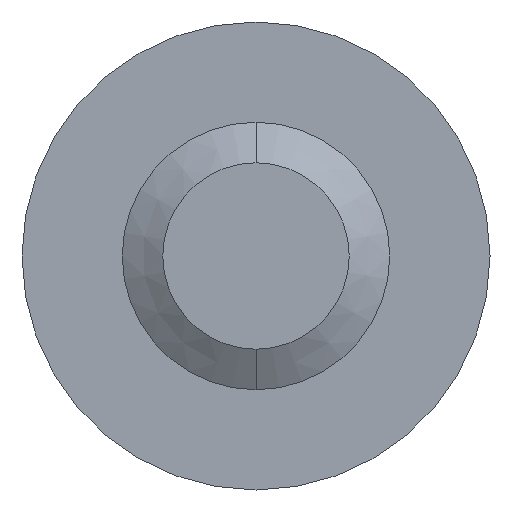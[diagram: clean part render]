
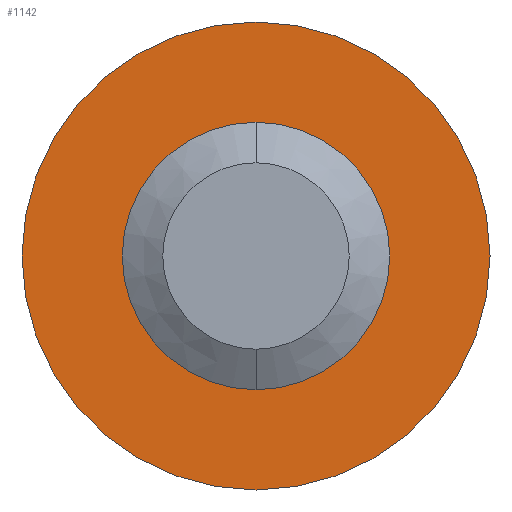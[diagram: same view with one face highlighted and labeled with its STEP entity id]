
A CAD part, front view. The second image highlights one B-rep face of the part: STEP entity #1142.
In plain terms, the highlighted planar face has unit normal (0, -1, 0).
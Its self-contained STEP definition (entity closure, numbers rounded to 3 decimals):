
#50 = ORIENTED_EDGE ( 'NONE', *, *, #1164, .T. ) ;
#132 = CARTESIAN_POINT ( 'NONE',  ( 0., 8., 2. ) ) ;
#155 = VERTEX_POINT ( 'NONE', #1863 ) ;
#159 = DIRECTION ( 'NONE',  ( 0., 1., 0. ) ) ;
#272 = CIRCLE ( 'NONE', #1053, 2. ) ;
#284 = CARTESIAN_POINT ( 'NONE',  ( 0., 8., 0. ) ) ;
#286 = AXIS2_PLACEMENT_3D ( 'NONE', #1284, #1498, #907 ) ;
#288 = CARTESIAN_POINT ( 'NONE',  ( 0., 8., 0. ) ) ;
#297 = DIRECTION ( 'NONE',  ( 0., 1., 0. ) ) ;
#316 = DIRECTION ( 'NONE',  ( 0., 0., 1. ) ) ;
#360 = AXIS2_PLACEMENT_3D ( 'NONE', #284, #704, #1010 ) ;
#579 = DIRECTION ( 'NONE',  ( 0., 0., 1. ) ) ;
#662 = CIRCLE ( 'NONE', #360, 3.5 ) ;
#701 = VERTEX_POINT ( 'NONE', #878 ) ;
#704 = DIRECTION ( 'NONE',  ( 0., 1., 0. ) ) ;
#721 = FACE_BOUND ( 'NONE', #1335, .T. ) ;
#730 = EDGE_CURVE ( 'NONE', #960, #155, #662, .T. ) ;
#733 = DIRECTION ( 'NONE',  ( 0., 0., 1. ) ) ;
#772 = EDGE_CURVE ( 'NONE', #155, #960, #1665, .T. ) ;
#786 = VERTEX_POINT ( 'NONE', #132 ) ;
#841 = AXIS2_PLACEMENT_3D ( 'NONE', #1162, #159, #733 ) ;
#864 = PLANE ( 'NONE',  #1395 ) ;
#878 = CARTESIAN_POINT ( 'NONE',  ( 0., 8., -2. ) ) ;
#890 = CARTESIAN_POINT ( 'NONE',  ( 0., 8., 0. ) ) ;
#907 = DIRECTION ( 'NONE',  ( 0., 0., 1. ) ) ;
#929 = CARTESIAN_POINT ( 'NONE',  ( 0., 8., 3.5 ) ) ;
#960 = VERTEX_POINT ( 'NONE', #929 ) ;
#1001 = EDGE_LOOP ( 'NONE', ( #1496, #1027 ) ) ;
#1010 = DIRECTION ( 'NONE',  ( 0., 0., 1. ) ) ;
#1027 = ORIENTED_EDGE ( 'NONE', *, *, #730, .F. ) ;
#1053 = AXIS2_PLACEMENT_3D ( 'NONE', #288, #297, #316 ) ;
#1104 = CIRCLE ( 'NONE', #286, 2. ) ;
#1142 = ADVANCED_FACE ( 'NONE', ( #1595, #721 ), #864, .F. ) ;
#1150 = DIRECTION ( 'NONE',  ( 0., 1., 0. ) ) ;
#1162 = CARTESIAN_POINT ( 'NONE',  ( 0., 8., 0. ) ) ;
#1164 = EDGE_CURVE ( 'NONE', #786, #701, #272, .T. ) ;
#1283 = ORIENTED_EDGE ( 'NONE', *, *, #1721, .T. ) ;
#1284 = CARTESIAN_POINT ( 'NONE',  ( 0., 8., 0. ) ) ;
#1335 = EDGE_LOOP ( 'NONE', ( #1283, #50 ) ) ;
#1395 = AXIS2_PLACEMENT_3D ( 'NONE', #890, #1150, #579 ) ;
#1496 = ORIENTED_EDGE ( 'NONE', *, *, #772, .F. ) ;
#1498 = DIRECTION ( 'NONE',  ( 0., 1., 0. ) ) ;
#1595 = FACE_OUTER_BOUND ( 'NONE', #1001, .T. ) ;
#1665 = CIRCLE ( 'NONE', #841, 3.5 ) ;
#1721 = EDGE_CURVE ( 'NONE', #701, #786, #1104, .T. ) ;
#1863 = CARTESIAN_POINT ( 'NONE',  ( 0., 8., -3.5 ) ) ;
